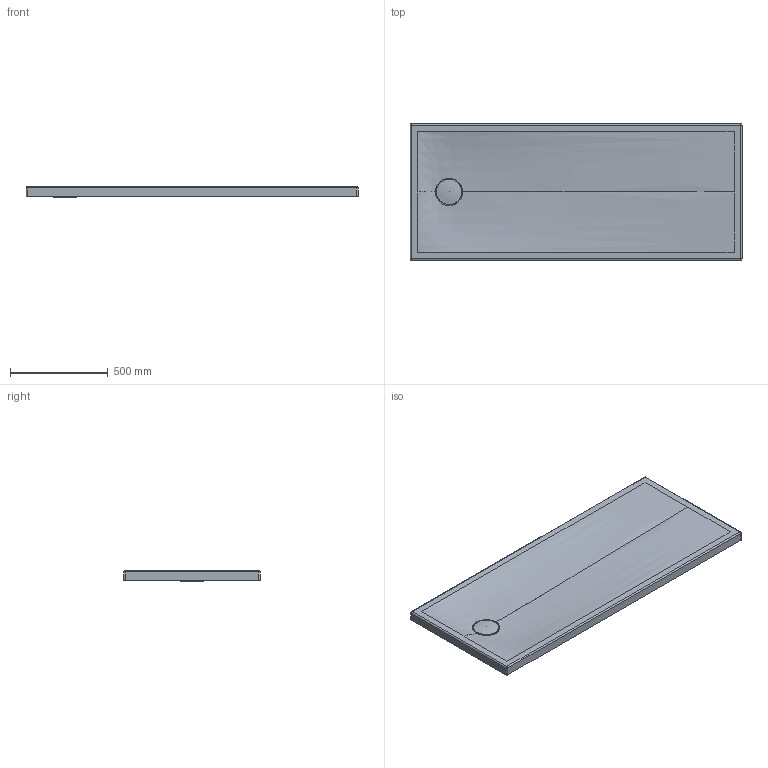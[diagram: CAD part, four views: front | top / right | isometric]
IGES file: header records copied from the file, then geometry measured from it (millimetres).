
Global section: file name: D:\01_Planungsdaten\_news19\W&W\Tempano\720210\3D\720210.igs; native system: Rhinoceros ( Sep 13 2016 ); preprocessor: Trout Lake IGES 012 Sep 13 2016; date: 190305.092114; units: millimetre
Bounding box: 1700 x 700 x 55.49 mm (x, y, z)
Surface area: 1472557.3 mm2 (no closed solid volume)
Topology: 0 solids, 0 shells, 36 faces, 266 edges, 261 vertices
Faces by surface type: bspline 36
